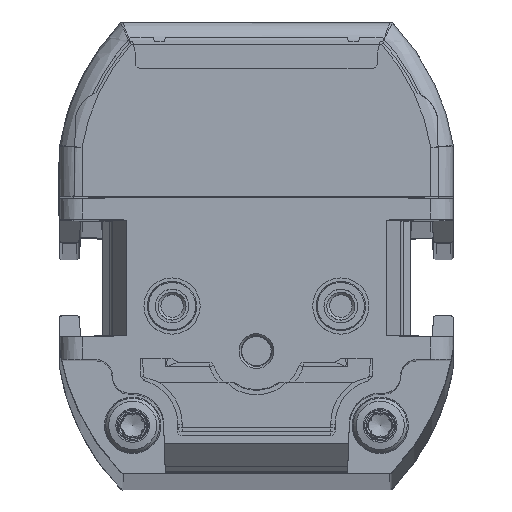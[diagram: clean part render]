
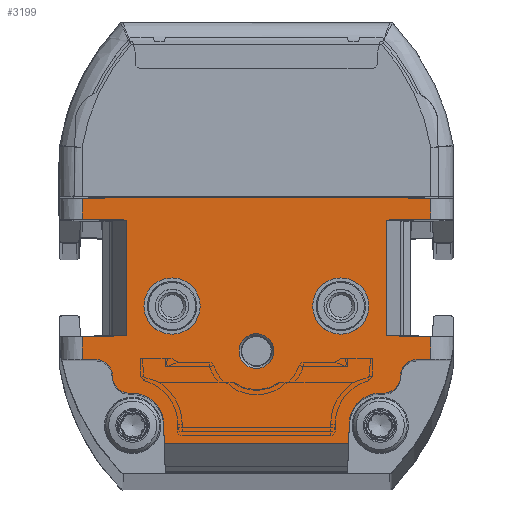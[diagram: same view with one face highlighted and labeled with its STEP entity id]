
A CAD part, top view. The second image highlights one B-rep face of the part: STEP entity #3199.
In plain terms, the highlighted planar face has unit normal (0, 0, 1).
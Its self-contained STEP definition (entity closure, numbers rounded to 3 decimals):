
#1297=FACE_BOUND('',#5329,.T.);
#1298=FACE_BOUND('',#5330,.T.);
#1299=FACE_BOUND('',#5331,.T.);
#1300=FACE_BOUND('',#5332,.T.);
#1824=CIRCLE('',#16890,1.5);
#1825=CIRCLE('',#16892,1.5);
#1826=CIRCLE('',#16895,2.75);
#1841=CIRCLE('',#16962,1.5);
#1842=CIRCLE('',#16964,1.5);
#1844=CIRCLE('',#16974,2.75);
#1845=CIRCLE('',#16982,2.5);
#1846=CIRCLE('',#16983,2.5);
#1847=CIRCLE('',#16984,1.55);
#3199=ADVANCED_FACE('',(#1297,#1298,#1299,#1300),#3772,.T.);
#3772=PLANE('',#16985);
#5329=EDGE_LOOP('',(#8247,#8248,#8249,#8250,#8251,#8252,#8253,#8254,#8255,
#8256,#8257,#8258,#8259,#8260,#8261,#8262,#8263,#8264,#8265,#8266,#8267,
#8268,#8269,#8270,#8271,#8272));
#5330=EDGE_LOOP('',(#8273));
#5331=EDGE_LOOP('',(#8274));
#5332=EDGE_LOOP('',(#8275));
#8247=ORIENTED_EDGE('',*,*,#12813,.F.);
#8248=ORIENTED_EDGE('',*,*,#12812,.T.);
#8249=ORIENTED_EDGE('',*,*,#12809,.T.);
#8250=ORIENTED_EDGE('',*,*,#12804,.T.);
#8251=ORIENTED_EDGE('',*,*,#12998,.T.);
#8252=ORIENTED_EDGE('',*,*,#12999,.T.);
#8253=ORIENTED_EDGE('',*,*,#13000,.T.);
#8254=ORIENTED_EDGE('',*,*,#13001,.T.);
#8255=ORIENTED_EDGE('',*,*,#13002,.T.);
#8256=ORIENTED_EDGE('',*,*,#12929,.F.);
#8257=ORIENTED_EDGE('',*,*,#12940,.F.);
#8258=ORIENTED_EDGE('',*,*,#12925,.F.);
#8259=ORIENTED_EDGE('',*,*,#13003,.T.);
#8260=ORIENTED_EDGE('',*,*,#13004,.F.);
#8261=ORIENTED_EDGE('',*,*,#13005,.T.);
#8262=ORIENTED_EDGE('',*,*,#13006,.F.);
#8263=ORIENTED_EDGE('',*,*,#13007,.T.);
#8264=ORIENTED_EDGE('',*,*,#12966,.F.);
#8265=ORIENTED_EDGE('',*,*,#12964,.T.);
#8266=ORIENTED_EDGE('',*,*,#12963,.T.);
#8267=ORIENTED_EDGE('',*,*,#12959,.F.);
#8268=ORIENTED_EDGE('',*,*,#12983,.F.);
#8269=ORIENTED_EDGE('',*,*,#12978,.F.);
#8270=ORIENTED_EDGE('',*,*,#13008,.T.);
#8271=ORIENTED_EDGE('',*,*,#12823,.F.);
#8272=ORIENTED_EDGE('',*,*,#12816,.F.);
#8273=ORIENTED_EDGE('',*,*,#13009,.F.);
#8274=ORIENTED_EDGE('',*,*,#13010,.F.);
#8275=ORIENTED_EDGE('',*,*,#13011,.T.);
#10962=VERTEX_POINT('',#30975);
#10963=VERTEX_POINT('',#30976);
#10966=VERTEX_POINT('',#30993);
#10967=VERTEX_POINT('',#30997);
#10968=VERTEX_POINT('',#31001);
#10969=VERTEX_POINT('',#31005);
#10976=VERTEX_POINT('',#31021);
#11060=VERTEX_POINT('',#31290);
#11064=VERTEX_POINT('',#31298);
#11067=VERTEX_POINT('',#31306);
#11068=VERTEX_POINT('',#31308);
#11086=VERTEX_POINT('',#31543);
#11087=VERTEX_POINT('',#31544);
#11088=VERTEX_POINT('',#31549);
#11089=VERTEX_POINT('',#31553);
#11090=VERTEX_POINT('',#31557);
#11099=VERTEX_POINT('',#31772);
#11100=VERTEX_POINT('',#31774);
#11111=VERTEX_POINT('',#31813);
#11112=VERTEX_POINT('',#31815);
#11113=VERTEX_POINT('',#31817);
#11114=VERTEX_POINT('',#31819);
#11115=VERTEX_POINT('',#31822);
#11116=VERTEX_POINT('',#31824);
#11117=VERTEX_POINT('',#31826);
#11118=VERTEX_POINT('',#31828);
#11119=VERTEX_POINT('',#31832);
#11120=VERTEX_POINT('',#31834);
#11121=VERTEX_POINT('',#31836);
#12804=EDGE_CURVE('',#10962,#10963,#14477,.T.);
#12809=EDGE_CURVE('',#10966,#10962,#1824,.T.);
#12812=EDGE_CURVE('',#10967,#10966,#1825,.T.);
#12813=EDGE_CURVE('',#10967,#10968,#14481,.T.);
#12816=EDGE_CURVE('',#10968,#10969,#1826,.T.);
#12823=EDGE_CURVE('',#10969,#10976,#14487,.T.);
#12925=EDGE_CURVE('',#11064,#11060,#14555,.T.);
#12929=EDGE_CURVE('',#11067,#11068,#14559,.T.);
#12940=EDGE_CURVE('',#11060,#11067,#14566,.T.);
#12959=EDGE_CURVE('',#11086,#11087,#14575,.T.);
#12963=EDGE_CURVE('',#11088,#11087,#1841,.T.);
#12964=EDGE_CURVE('',#11089,#11088,#1842,.T.);
#12966=EDGE_CURVE('',#11089,#11090,#14580,.T.);
#12978=EDGE_CURVE('',#11099,#11100,#14584,.T.);
#12983=EDGE_CURVE('',#11100,#11086,#1844,.T.);
#12998=EDGE_CURVE('',#10963,#11111,#14601,.T.);
#12999=EDGE_CURVE('',#11111,#11112,#14602,.T.);
#13000=EDGE_CURVE('',#11112,#11113,#14603,.T.);
#13001=EDGE_CURVE('',#11113,#11114,#14604,.T.);
#13002=EDGE_CURVE('',#11114,#11068,#14605,.T.);
#13003=EDGE_CURVE('',#11064,#11115,#14606,.T.);
#13004=EDGE_CURVE('',#11116,#11115,#14607,.T.);
#13005=EDGE_CURVE('',#11116,#11117,#14608,.T.);
#13006=EDGE_CURVE('',#11118,#11117,#14609,.T.);
#13007=EDGE_CURVE('',#11118,#11090,#14610,.T.);
#13008=EDGE_CURVE('',#11099,#10976,#14611,.T.);
#13009=EDGE_CURVE('',#11119,#11119,#1845,.T.);
#13010=EDGE_CURVE('',#11120,#11120,#1846,.T.);
#13011=EDGE_CURVE('',#11121,#11121,#1847,.T.);
#14477=LINE('',#30974,#15652);
#14481=LINE('',#31000,#15656);
#14487=LINE('',#31020,#15662);
#14555=LINE('',#31299,#15730);
#14559=LINE('',#31307,#15734);
#14566=LINE('',#31328,#15741);
#14575=LINE('',#31542,#15750);
#14580=LINE('',#31556,#15755);
#14584=LINE('',#31773,#15759);
#14601=LINE('',#31812,#15776);
#14602=LINE('',#31814,#15777);
#14603=LINE('',#31816,#15778);
#14604=LINE('',#31818,#15779);
#14605=LINE('',#31820,#15780);
#14606=LINE('',#31821,#15781);
#14607=LINE('',#31823,#15782);
#14608=LINE('',#31825,#15783);
#14609=LINE('',#31827,#15784);
#14610=LINE('',#31829,#15785);
#14611=LINE('',#31830,#15786);
#15652=VECTOR('',#19448,1.);
#15656=VECTOR('',#19464,1.);
#15662=VECTOR('',#19482,1.);
#15730=VECTOR('',#19630,1.);
#15734=VECTOR('',#19636,1.);
#15741=VECTOR('',#19659,1.);
#15750=VECTOR('',#19692,1.);
#15755=VECTOR('',#19707,1.);
#15759=VECTOR('',#19721,1.);
#15776=VECTOR('',#19760,1.);
#15777=VECTOR('',#19761,1.);
#15778=VECTOR('',#19762,1.);
#15779=VECTOR('',#19763,1.);
#15780=VECTOR('',#19764,1.);
#15781=VECTOR('',#19765,1.);
#15782=VECTOR('',#19766,1.);
#15783=VECTOR('',#19767,1.);
#15784=VECTOR('',#19768,1.);
#15785=VECTOR('',#19769,1.);
#15786=VECTOR('',#19770,1.);
#16890=AXIS2_PLACEMENT_3D('',#30992,#19454,#19455);
#16892=AXIS2_PLACEMENT_3D('',#30998,#19460,#19461);
#16895=AXIS2_PLACEMENT_3D('',#31006,#19469,#19470);
#16962=AXIS2_PLACEMENT_3D('',#31550,#19698,#19699);
#16964=AXIS2_PLACEMENT_3D('',#31552,#19702,#19703);
#16974=AXIS2_PLACEMENT_3D('',#31782,#19730,#19731);
#16982=AXIS2_PLACEMENT_3D('',#31831,#19771,#19772);
#16983=AXIS2_PLACEMENT_3D('',#31833,#19773,#19774);
#16984=AXIS2_PLACEMENT_3D('',#31835,#19775,#19776);
#16985=AXIS2_PLACEMENT_3D('',#31837,#19777,#19778);
#19448=DIRECTION('',(1.,0.,0.));
#19454=DIRECTION('',(0.,0.,-1.));
#19455=DIRECTION('',(1.,0.,0.));
#19460=DIRECTION('',(0.,0.,1.));
#19461=DIRECTION('',(1.,0.,0.));
#19464=DIRECTION('',(-1.,0.,0.));
#19469=DIRECTION('',(0.,0.,1.));
#19470=DIRECTION('',(1.,0.,0.));
#19482=DIRECTION('',(-0.035,-0.999,0.));
#19630=DIRECTION('',(1.,0.017,0.));
#19636=DIRECTION('',(1.,-0.017,0.));
#19659=DIRECTION('',(1.,0.,0.));
#19692=DIRECTION('',(-1.,0.,0.));
#19698=DIRECTION('',(0.,0.,1.));
#19699=DIRECTION('',(1.,0.,0.));
#19702=DIRECTION('',(0.,0.,-1.));
#19703=DIRECTION('',(1.,0.,0.));
#19707=DIRECTION('',(-1.,0.,0.));
#19721=DIRECTION('',(-0.035,0.999,0.));
#19730=DIRECTION('',(0.,0.,1.));
#19731=DIRECTION('',(1.,0.,0.));
#19760=DIRECTION('',(0.,1.,0.));
#19761=DIRECTION('',(-1.,0.017,0.));
#19762=DIRECTION('',(0.,1.,0.));
#19763=DIRECTION('',(1.,0.017,0.));
#19764=DIRECTION('',(0.,1.,0.));
#19765=DIRECTION('',(0.,-1.,0.));
#19766=DIRECTION('',(-1.,0.017,0.));
#19767=DIRECTION('',(0.,-1.,0.));
#19768=DIRECTION('',(1.,0.017,0.));
#19769=DIRECTION('',(0.,-1.,0.));
#19770=DIRECTION('',(1.,0.,0.));
#19771=DIRECTION('',(0.,0.,1.));
#19772=DIRECTION('',(1.,0.,0.));
#19773=DIRECTION('',(0.,0.,1.));
#19774=DIRECTION('',(1.,0.,0.));
#19775=DIRECTION('',(0.,0.,-1.));
#19776=DIRECTION('',(1.,0.,0.));
#19777=DIRECTION('',(0.,0.,1.));
#19778=DIRECTION('',(1.,0.,0.));
#30974=CARTESIAN_POINT('',(-17.5,10.,914.));
#30975=CARTESIAN_POINT('',(14.3,10.,914.));
#30976=CARTESIAN_POINT('',(15.5,10.,914.));
#30992=CARTESIAN_POINT('',(14.3,8.5,914.));
#30993=CARTESIAN_POINT('',(12.8,8.5,914.));
#30997=CARTESIAN_POINT('',(11.3,7.,914.));
#30998=CARTESIAN_POINT('',(11.3,8.5,914.));
#31000=CARTESIAN_POINT('',(23.25,7.,914.));
#31001=CARTESIAN_POINT('',(11.002,7.,914.));
#31005=CARTESIAN_POINT('',(8.253,4.346,914.));
#31006=CARTESIAN_POINT('',(11.002,4.25,914.));
#31020=CARTESIAN_POINT('',(8.25,4.25,914.));
#31021=CARTESIAN_POINT('',(8.189,2.5,914.));
#31290=CARTESIAN_POINT('',(-13.025,24.36,914.));
#31298=CARTESIAN_POINT('',(-15.5,24.317,914.));
#31299=CARTESIAN_POINT('',(-17.924,24.275,914.));
#31306=CARTESIAN_POINT('',(13.025,24.36,914.));
#31307=CARTESIAN_POINT('',(-17.066,24.886,914.));
#31308=CARTESIAN_POINT('',(15.5,24.317,914.));
#31328=CARTESIAN_POINT('',(-17.5,24.36,914.));
#31542=CARTESIAN_POINT('',(-11.,7.,914.));
#31543=CARTESIAN_POINT('',(-11.002,7.,914.));
#31544=CARTESIAN_POINT('',(-11.3,7.,914.));
#31549=CARTESIAN_POINT('',(-12.8,8.5,914.));
#31550=CARTESIAN_POINT('',(-11.3,8.5,914.));
#31552=CARTESIAN_POINT('',(-14.3,8.5,914.));
#31553=CARTESIAN_POINT('',(-14.3,10.,914.));
#31556=CARTESIAN_POINT('',(-17.5,10.,914.));
#31557=CARTESIAN_POINT('',(-15.5,10.,914.));
#31772=CARTESIAN_POINT('',(-8.189,2.5,914.));
#31773=CARTESIAN_POINT('',(-8.25,4.25,914.));
#31774=CARTESIAN_POINT('',(-8.253,4.346,914.));
#31782=CARTESIAN_POINT('',(-11.002,4.25,914.));
#31812=CARTESIAN_POINT('',(15.5,0.,914.));
#31813=CARTESIAN_POINT('',(15.5,12.038,914.));
#31814=CARTESIAN_POINT('',(-17.28,12.61,914.));
#31815=CARTESIAN_POINT('',(11.55,12.107,914.));
#31816=CARTESIAN_POINT('',(11.55,0.,914.));
#31817=CARTESIAN_POINT('',(11.55,22.393,914.));
#31818=CARTESIAN_POINT('',(-17.882,21.88,914.));
#31819=CARTESIAN_POINT('',(15.5,22.462,914.));
#31820=CARTESIAN_POINT('',(15.5,0.,914.));
#31821=CARTESIAN_POINT('',(-15.5,0.,914.));
#31822=CARTESIAN_POINT('',(-15.5,22.462,914.));
#31823=CARTESIAN_POINT('',(-17.107,22.49,914.));
#31824=CARTESIAN_POINT('',(-11.55,22.393,914.));
#31825=CARTESIAN_POINT('',(-11.55,0.,914.));
#31826=CARTESIAN_POINT('',(-11.55,12.107,914.));
#31827=CARTESIAN_POINT('',(-17.709,11.999,914.));
#31828=CARTESIAN_POINT('',(-15.5,12.038,914.));
#31829=CARTESIAN_POINT('',(-15.5,0.,914.));
#31830=CARTESIAN_POINT('',(-17.5,2.5,914.));
#31831=CARTESIAN_POINT('',(-7.5,14.75,914.));
#31832=CARTESIAN_POINT('',(-5.,14.75,914.));
#31833=CARTESIAN_POINT('',(7.5,14.75,914.));
#31834=CARTESIAN_POINT('',(10.,14.75,914.));
#31835=CARTESIAN_POINT('',(0.,10.75,914.));
#31836=CARTESIAN_POINT('',(1.55,10.75,914.));
#31837=CARTESIAN_POINT('',(-17.5,0.,914.));
